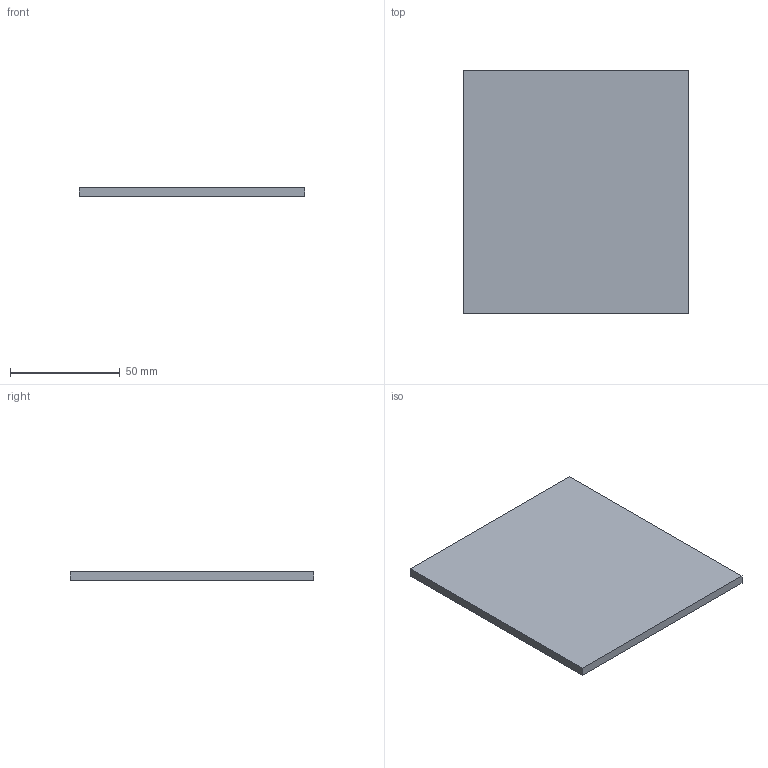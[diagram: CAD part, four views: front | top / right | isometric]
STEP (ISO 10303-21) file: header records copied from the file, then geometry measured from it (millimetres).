
FILE_DESCRIPTION (( 'STEP AP203' ), '1' );
FILE_NAME ('REF_common_flat_datum.step', '2026-10-06T17:15:12', ( '' ), ( '' ), 'SwSTEP 2.0', 'SolidWorks 2025', '' );
FILE_SCHEMA (( 'CONFIG_CONTROL_DESIGN' ));
Length unit declared in the file: millimetre
Products named in the file (1): REF_common_flat_datum
Bounding box: 103 x 111 x 4 mm (x, y, z)
Volume: 45732 mm3; surface area: 24578 mm2
Topology: 1 solids, 1 shells, 6 faces, 12 edges, 8 vertices
Faces by surface type: plane 6
Entity records: 233 total; most frequent: CARTESIAN_POINT 27, DIRECTION 26, ORIENTED_EDGE 24, VECTOR 12, LINE 12, EDGE_CURVE 12, PERSON_AND_ORGANIZATION 8, VERTEX_POINT 8
